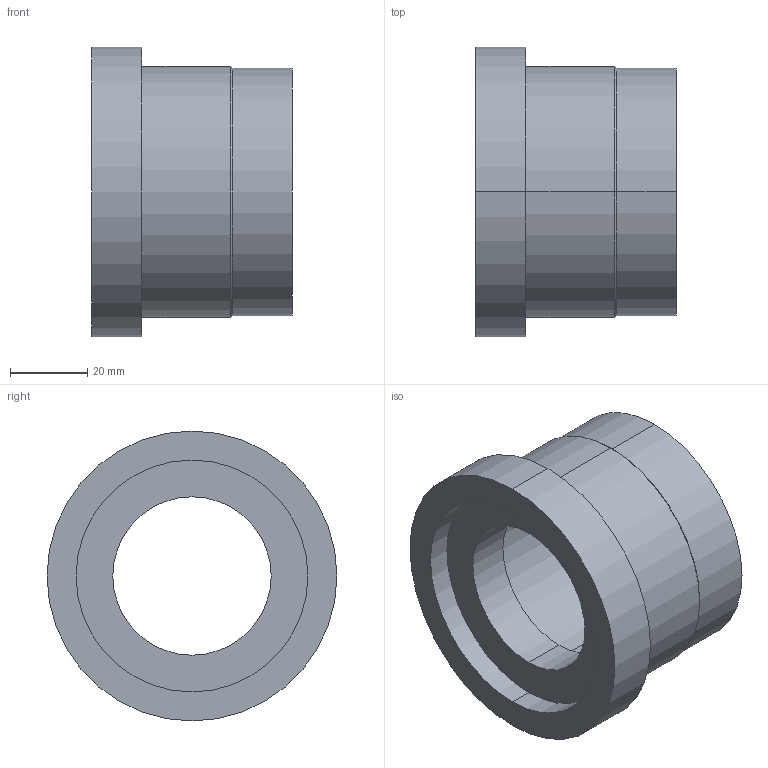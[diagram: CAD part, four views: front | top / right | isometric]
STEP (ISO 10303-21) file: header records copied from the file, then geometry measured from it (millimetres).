
FILE_DESCRIPTION (( 'STEP AP203' ), '1' );
FILE_NAME ('1 1-2(1-2鋼管用).STEP', '2014-07-14T08:57:42', ( 'jameswang' ), ( '' ), 'SwSTEP 2.0', 'SolidWorks 2013', '' );
FILE_SCHEMA (( 'CONFIG_CONTROL_DESIGN' ));
Length unit declared in the file: millimetre
Products named in the file (1): 1 1-2(1-2鋼管用)
Bounding box: 52 x 75 x 75 mm (x, y, z)
Volume: 86551 mm3; surface area: 24838.6 mm2
Topology: 1 solids, 1 shells, 23 faces, 46 edges, 28 vertices
Faces by surface type: cylinder 12, plane 5, torus 4, cone 2
Entity records: 689 total; most frequent: DIRECTION 126, CARTESIAN_POINT 98, ORIENTED_EDGE 92, AXIS2_PLACEMENT_3D 56, EDGE_CURVE 46, CIRCLE 32, EDGE_LOOP 28, VERTEX_POINT 28
